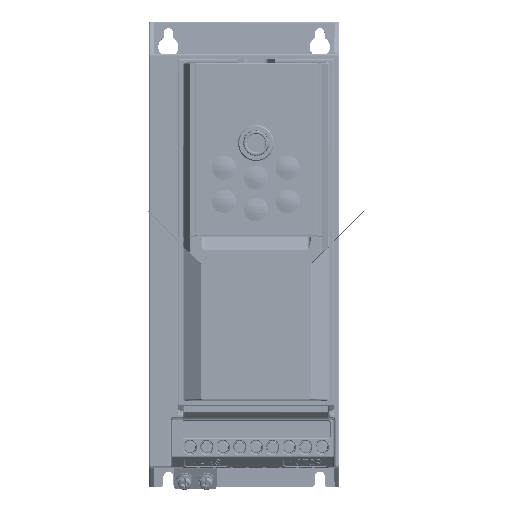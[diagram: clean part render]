
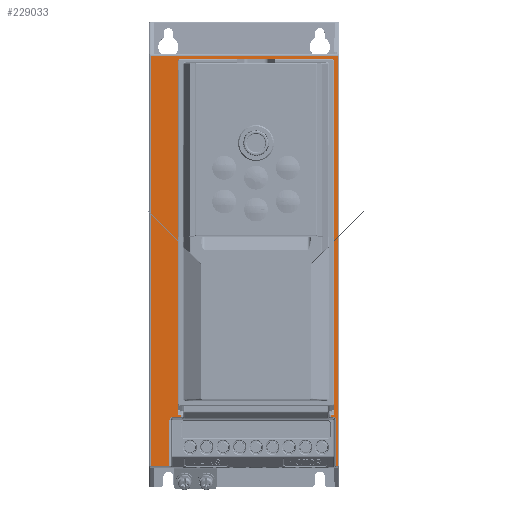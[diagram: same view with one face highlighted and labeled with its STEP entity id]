
A CAD part, top view. The second image highlights one B-rep face of the part: STEP entity #229033.
In plain terms, the highlighted planar face has unit normal (0, 0, 1).
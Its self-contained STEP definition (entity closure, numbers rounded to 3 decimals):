
#43703=DIRECTION('',(1.,0.,0.));
#43704=VECTOR('',#43703,1.685);
#43705=CARTESIAN_POINT('',(-36.119,-164.399,0.));
#43706=LINE('',#43705,#43704);
#43710=DIRECTION('',(0.,1.,0.));
#43711=VECTOR('',#43710,0.621);
#43712=CARTESIAN_POINT('',(-34.435,-165.02,0.));
#43713=LINE('',#43712,#43711);
#43717=DIRECTION('',(1.,0.,0.));
#43718=VECTOR('',#43717,3.945);
#43719=CARTESIAN_POINT('',(-38.38,-165.02,
0.));
#43720=LINE('',#43719,#43718);
#43724=CARTESIAN_POINT('',(-39.98,-166.62,0.));
#43725=CARTESIAN_POINT('',(-39.98,-166.446,
0.));
#43726=CARTESIAN_POINT('',(-39.925,-166.12,
0.));
#43727=CARTESIAN_POINT('',(-39.709,-165.688,
0.));
#43728=CARTESIAN_POINT('',(-39.377,-165.335,
0.));
#43729=CARTESIAN_POINT('',(-38.909,-165.08,
0.));
#43730=CARTESIAN_POINT('',(-38.565,-165.02,
0.));
#43731=CARTESIAN_POINT('',(-38.38,-165.02,
0.));
#43736=DIRECTION('',(0.,1.,0.));
#43737=VECTOR('',#43736,21.08);
#43738=CARTESIAN_POINT('',(-39.98,-187.7,0.));
#43739=LINE('',#43738,#43737);
#43743=DIRECTION('',(1.,0.,0.));
#43744=VECTOR('',#43743,8.72);
#43745=CARTESIAN_POINT('',(-48.7,-187.7,0.));
#43746=LINE('',#43745,#43744);
#43750=DIRECTION('',(0.,-1.,0.));
#43751=VECTOR('',#43750,189.4);
#43752=CARTESIAN_POINT('',(-48.7,1.7,0.));
#43753=LINE('',#43752,#43751);
#43757=DIRECTION('',(-1.,0.,0.));
#43758=VECTOR('',#43757,86.4);
#43759=CARTESIAN_POINT('',(37.7,1.7,0.));
#43760=LINE('',#43759,#43758);
#43764=DIRECTION('',(0.,1.,0.));
#43765=VECTOR('',#43764,189.4);
#43766=CARTESIAN_POINT('',(37.7,-187.7,0.));
#43767=LINE('',#43766,#43765);
#43771=DIRECTION('',(1.,0.,0.));
#43772=VECTOR('',#43771,0.62);
#43773=CARTESIAN_POINT('',(37.08,-187.7,0.));
#43774=LINE('',#43773,#43772);
#43778=DIRECTION('',(0.,-1.,0.));
#43779=VECTOR('',#43778,21.08);
#43780=CARTESIAN_POINT('',(37.08,-166.62,
0.));
#43781=LINE('',#43780,#43779);
#43785=CARTESIAN_POINT('',(35.48,-165.02,
0.));
#43786=CARTESIAN_POINT('',(35.654,-165.02,
0.));
#43787=CARTESIAN_POINT('',(35.98,-165.075,
0.));
#43788=CARTESIAN_POINT('',(36.412,-165.291,
0.));
#43789=CARTESIAN_POINT('',(36.765,-165.623,
0.));
#43790=CARTESIAN_POINT('',(37.02,-166.091,
0.));
#43791=CARTESIAN_POINT('',(37.08,-166.435,
0.));
#43792=CARTESIAN_POINT('',(37.08,-166.62,
0.));
#43797=DIRECTION('',(1.,0.,0.));
#43798=VECTOR('',#43797,1.045);
#43799=CARTESIAN_POINT('',(34.435,-165.02,0.));
#43800=LINE('',#43799,#43798);
#43804=DIRECTION('',(0.,-1.,0.));
#43805=VECTOR('',#43804,0.621);
#43806=CARTESIAN_POINT('',(34.435,-164.399,0.));
#43807=LINE('',#43806,#43805);
#43811=DIRECTION('',(-1.,0.,0.));
#43812=VECTOR('',#43811,1.685);
#43813=CARTESIAN_POINT('',(36.119,-164.399,0.));
#43814=LINE('',#43813,#43812);
#43818=DIRECTION('',(-1.,0.,0.));
#43819=VECTOR('',#43818,70.639);
#43820=CARTESIAN_POINT('',(35.319,0.119,0.));
#43821=LINE('',#43820,#43819);
#53193=CARTESIAN_POINT('',(34.435,-164.399,0.));
#53900=CARTESIAN_POINT('',(-34.435,-164.399,0.));
#140984=DIRECTION('',(0.,1.,0.));
#140985=VECTOR('',#140984,163.719);
#140986=CARTESIAN_POINT('',(-36.119,-164.399,0.));
#140987=LINE('',#140986,#140985);
#141022=CARTESIAN_POINT('',(-36.119,-0.681,0.));
#141023=CARTESIAN_POINT('',(-36.119,-0.414,0.));
#141024=CARTESIAN_POINT('',(-35.917,-0.083,0.));
#141025=CARTESIAN_POINT('',(-35.586,0.119,0.));
#141026=CARTESIAN_POINT('',(-35.319,0.119,0.));
#141045=CARTESIAN_POINT('',(35.319,0.119,0.));
#141046=CARTESIAN_POINT('',(35.586,0.119,0.));
#141047=CARTESIAN_POINT('',(35.917,-0.083,0.));
#141048=CARTESIAN_POINT('',(36.119,-0.414,0.));
#141049=CARTESIAN_POINT('',(36.119,-0.681,0.));
#141054=DIRECTION('',(0.,-1.,0.));
#141055=VECTOR('',#141054,163.719);
#141056=CARTESIAN_POINT('',(36.119,-0.681,0.));
#141057=LINE('',#141056,#141055);
#176061=CARTESIAN_POINT('',(-38.38,-165.02,
0.));
#176062=CARTESIAN_POINT('',(-34.435,-165.02,0.));
#176063=VERTEX_POINT('',#176061);
#176064=VERTEX_POINT('',#176062);
#176067=VERTEX_POINT('',#43724);
#176069=CARTESIAN_POINT('',(-39.98,-187.7,0.));
#176070=VERTEX_POINT('',#176069);
#176075=CARTESIAN_POINT('',(-48.7,-187.7,0.));
#176076=VERTEX_POINT('',#176075);
#176081=CARTESIAN_POINT('',(-48.7,1.7,0.));
#176082=VERTEX_POINT('',#176081);
#176087=CARTESIAN_POINT('',(37.7,1.7,0.));
#176088=VERTEX_POINT('',#176087);
#176093=CARTESIAN_POINT('',(37.7,-187.7,0.));
#176094=VERTEX_POINT('',#176093);
#176099=CARTESIAN_POINT('',(37.08,-187.7,0.));
#176100=VERTEX_POINT('',#176099);
#176105=CARTESIAN_POINT('',(37.08,-166.62,
0.));
#176106=VERTEX_POINT('',#176105);
#176109=VERTEX_POINT('',#43785);
#176111=CARTESIAN_POINT('',(34.435,-165.02,0.));
#176112=VERTEX_POINT('',#176111);
#176248=CARTESIAN_POINT('',(-36.119,-0.681,0.));
#176249=VERTEX_POINT('',#176248);
#176250=CARTESIAN_POINT('',(-35.319,0.119,0.));
#176251=VERTEX_POINT('',#176250);
#176254=CARTESIAN_POINT('',(35.319,0.119,0.));
#176255=VERTEX_POINT('',#176254);
#176256=CARTESIAN_POINT('',(36.119,-0.681,0.));
#176257=VERTEX_POINT('',#176256);
#176298=VERTEX_POINT('',#53900);
#176301=CARTESIAN_POINT('',(-36.119,-164.399,0.));
#176302=VERTEX_POINT('',#176301);
#176324=VERTEX_POINT('',#53193);
#176326=CARTESIAN_POINT('',(36.119,-164.399,0.));
#176327=VERTEX_POINT('',#176326);
#228986=CARTESIAN_POINT('',(0.,0.,0.));
#228987=DIRECTION('',(0.,0.,1.));
#228988=DIRECTION('',(1.,0.,0.));
#228989=AXIS2_PLACEMENT_3D('',#228986,#228987,#228988);
#228990=PLANE('',#228989);
#228992=ORIENTED_EDGE('',*,*,#228991,.T.);
#228994=ORIENTED_EDGE('',*,*,#228993,.F.);
#228996=ORIENTED_EDGE('',*,*,#228995,.F.);
#228998=ORIENTED_EDGE('',*,*,#228997,.F.);
#229000=ORIENTED_EDGE('',*,*,#228999,.F.);
#229002=ORIENTED_EDGE('',*,*,#229001,.F.);
#229004=ORIENTED_EDGE('',*,*,#229003,.F.);
#229006=ORIENTED_EDGE('',*,*,#229005,.F.);
#229008=ORIENTED_EDGE('',*,*,#229007,.F.);
#229010=ORIENTED_EDGE('',*,*,#229009,.F.);
#229012=ORIENTED_EDGE('',*,*,#229011,.F.);
#229014=ORIENTED_EDGE('',*,*,#229013,.F.);
#229016=ORIENTED_EDGE('',*,*,#229015,.F.);
#229018=ORIENTED_EDGE('',*,*,#229017,.F.);
#229020=ORIENTED_EDGE('',*,*,#229019,.F.);
#229022=ORIENTED_EDGE('',*,*,#229021,.F.);
#229024=ORIENTED_EDGE('',*,*,#229023,.F.);
#229026=ORIENTED_EDGE('',*,*,#229025,.T.);
#229028=ORIENTED_EDGE('',*,*,#229027,.F.);
#229030=ORIENTED_EDGE('',*,*,#229029,.F.);
#229031=EDGE_LOOP('',(#228992,#228994,#228996,#228998,#229000,#229002,#229004,
#229006,#229008,#229010,#229012,#229014,#229016,#229018,#229020,#229022,#229024,
#229026,#229028,#229030));
#229032=FACE_OUTER_BOUND('',#229031,.F.);
#229033=ADVANCED_FACE('',(#229032),#228990,.T.);
#43732=B_SPLINE_CURVE_WITH_KNOTS('',3,(#43724,#43725,#43726,#43727,#43728,
#43729,#43730,#43731),.UNSPECIFIED.,.F.,.F.,(4,1,1,1,1,4),(0.,0.2,0.4,
0.6,0.8,1.),.UNSPECIFIED.);
#43793=B_SPLINE_CURVE_WITH_KNOTS('',3,(#43785,#43786,#43787,#43788,#43789,
#43790,#43791,#43792),.UNSPECIFIED.,.F.,.F.,(4,1,1,1,1,4),(0.,0.2,0.4,
0.6,0.8,1.),.UNSPECIFIED.);
#141027=B_SPLINE_CURVE_WITH_KNOTS('',3,(#141022,#141023,#141024,#141025,
#141026),.UNSPECIFIED.,.F.,.F.,(4,1,4),(0.,0.5,1.),.UNSPECIFIED.);
#141050=B_SPLINE_CURVE_WITH_KNOTS('',3,(#141045,#141046,#141047,#141048,
#141049),.UNSPECIFIED.,.F.,.F.,(4,1,4),(0.,0.5,1.),.UNSPECIFIED.);
#228991=EDGE_CURVE('',#176302,#176298,#43706,.T.);
#228993=EDGE_CURVE('',#176064,#176298,#43713,.T.);
#228995=EDGE_CURVE('',#176063,#176064,#43720,.T.);
#228997=EDGE_CURVE('',#176067,#176063,#43732,.T.);
#228999=EDGE_CURVE('',#176070,#176067,#43739,.T.);
#229001=EDGE_CURVE('',#176076,#176070,#43746,.T.);
#229003=EDGE_CURVE('',#176082,#176076,#43753,.T.);
#229005=EDGE_CURVE('',#176088,#176082,#43760,.T.);
#229007=EDGE_CURVE('',#176094,#176088,#43767,.T.);
#229009=EDGE_CURVE('',#176100,#176094,#43774,.T.);
#229011=EDGE_CURVE('',#176106,#176100,#43781,.T.);
#229013=EDGE_CURVE('',#176109,#176106,#43793,.T.);
#229015=EDGE_CURVE('',#176112,#176109,#43800,.T.);
#229017=EDGE_CURVE('',#176324,#176112,#43807,.T.);
#229019=EDGE_CURVE('',#176327,#176324,#43814,.T.);
#229021=EDGE_CURVE('',#176257,#176327,#141057,.T.);
#229023=EDGE_CURVE('',#176255,#176257,#141050,.T.);
#229025=EDGE_CURVE('',#176255,#176251,#43821,.T.);
#229027=EDGE_CURVE('',#176249,#176251,#141027,.T.);
#229029=EDGE_CURVE('',#176302,#176249,#140987,.T.);
